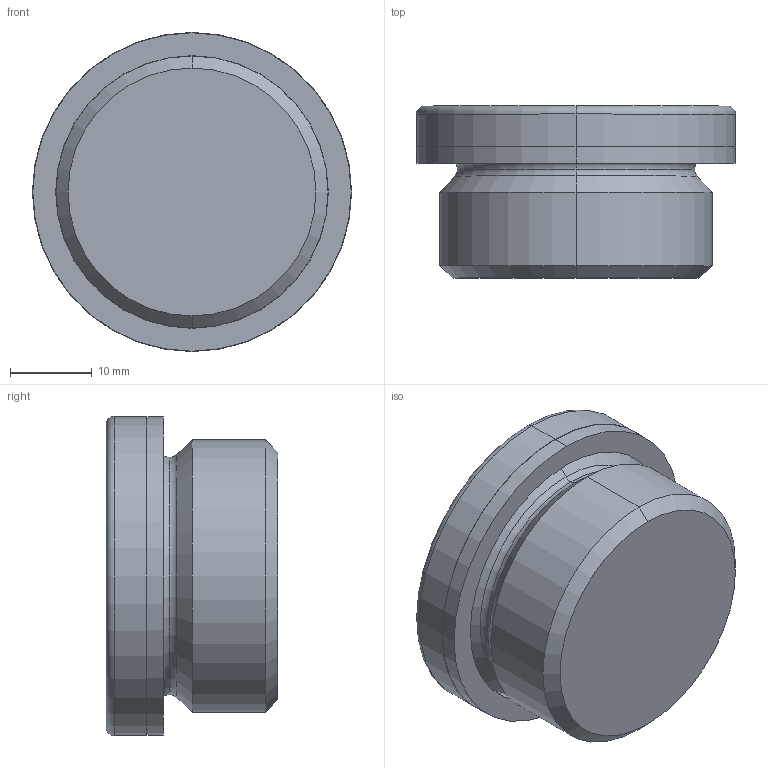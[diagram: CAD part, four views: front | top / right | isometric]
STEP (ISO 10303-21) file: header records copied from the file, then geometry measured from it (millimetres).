
FILE_DESCRIPTION (( 'STEP AP214' ), '1' );
FILE_NAME ('908-ST-G1-AN.step', '2024-12-19T09:19:21', ( '' ), ( '' ), 'SwSTEP 2.0', 'SolidWorks 2022', '' );
FILE_SCHEMA (( 'AUTOMOTIVE_DESIGN' ));
Length unit declared in the file: millimetre
Products named in the file (1): 908-ST-G1-AN
Bounding box: 39 x 21 x 39 mm (x, y, z)
Volume: 17444 mm3; surface area: 5603.7 mm2
Topology: 1 solids, 1 shells, 31 faces, 64 edges, 38 vertices
Faces by surface type: plane 11, cylinder 8, torus 6, cone 6
Entity records: 929 total; most frequent: DIRECTION 160, CARTESIAN_POINT 134, ORIENTED_EDGE 128, AXIS2_PLACEMENT_3D 64, EDGE_CURVE 64, VERTEX_POINT 38, EDGE_LOOP 34, LINE 32
